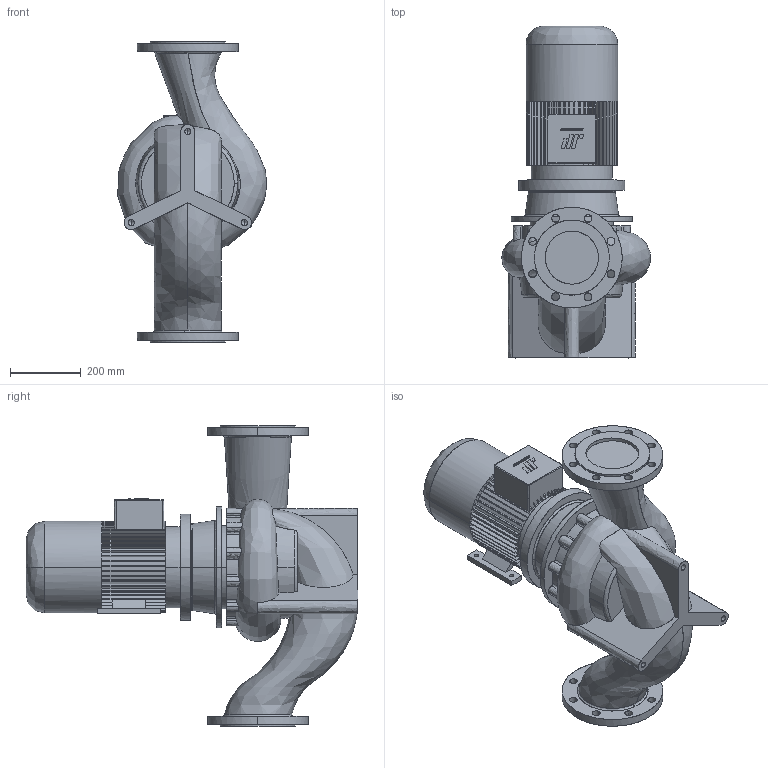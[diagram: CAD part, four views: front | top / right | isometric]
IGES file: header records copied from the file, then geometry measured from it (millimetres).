
Start section: CombiLine
Global section: file name: CLB_150-250_IEC132S_ND10.igs; native system:  By UGS Corp.; preprocessor: XPlus GENERIC/IGES 3.0; author: Stageplaats; organization: Johnson Pump Water B.V.; date: 20070718.084015; units: millimetre
Bounding box: 420.53 x 938.5 x 850 mm (x, y, z)
Surface area: 2092571 mm2 (no closed solid volume)
Topology: 0 solids, 0 shells, 617 faces, 3740 edges, 3734 vertices
Faces by surface type: bspline 617
